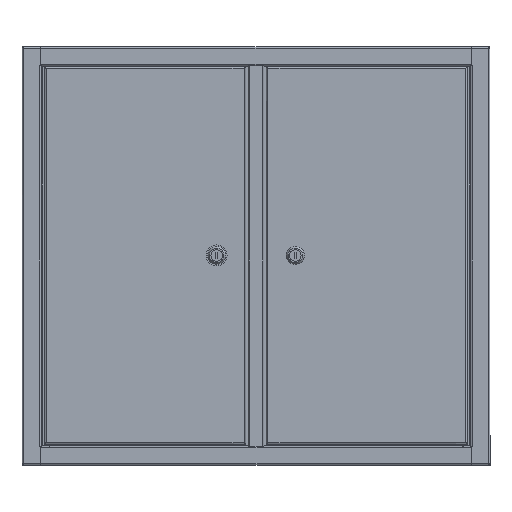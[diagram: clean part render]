
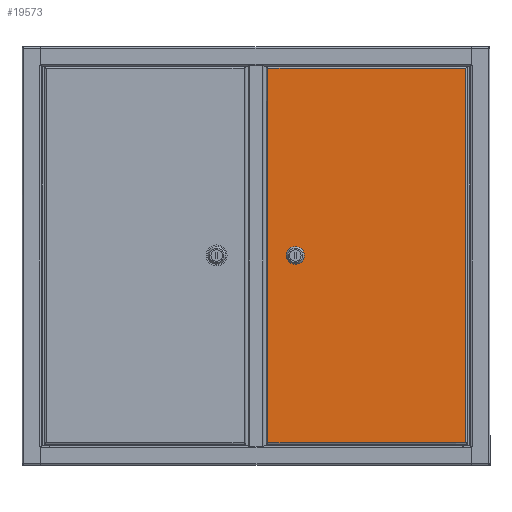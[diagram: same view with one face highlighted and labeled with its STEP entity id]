
A CAD part, top view. The second image highlights one B-rep face of the part: STEP entity #19573.
In plain terms, the highlighted planar face has unit normal (0, 0, 1).
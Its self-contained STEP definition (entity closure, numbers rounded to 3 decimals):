
#93 = CARTESIAN_POINT ( 'NONE',  ( -6.9, -496.5, 576.901 ) ) ;
#163 = VERTEX_POINT ( 'NONE', #13066 ) ;
#189 = DIRECTION ( 'NONE',  ( -1., 0., 0. ) ) ;
#197 = ORIENTED_EDGE ( 'NONE', *, *, #11896, .F. ) ;
#218 = EDGE_CURVE ( 'NONE', #21277, #19864, #6233, .T. ) ;
#311 = ORIENTED_EDGE ( 'NONE', *, *, #218, .F. ) ;
#785 = DIRECTION ( 'NONE',  ( 0., 0., 1. ) ) ;
#1445 = VERTEX_POINT ( 'NONE', #3227 ) ;
#1457 = CARTESIAN_POINT ( 'NONE',  ( -222., -242.1, 576.901 ) ) ;
#1505 = EDGE_CURVE ( 'NONE', #21277, #19924, #6141, .T. ) ;
#1922 = FACE_OUTER_BOUND ( 'NONE', #10772, .T. ) ;
#2087 = DIRECTION ( 'NONE',  ( 1., 0., 0. ) ) ;
#2501 = ORIENTED_EDGE ( 'NONE', *, *, #6378, .F. ) ;
#3227 = CARTESIAN_POINT ( 'NONE',  ( -222., -242.1, 576.901 ) ) ;
#4042 = DIRECTION ( 'NONE',  ( 0., 1., 0. ) ) ;
#4104 = PLANE ( 'NONE',  #9706 ) ;
#4255 = ORIENTED_EDGE ( 'NONE', *, *, #16265, .F. ) ;
#4791 = ORIENTED_EDGE ( 'NONE', *, *, #1505, .T. ) ;
#6141 = LINE ( 'NONE', #93, #18536 ) ;
#6214 = DIRECTION ( 'NONE',  ( 0., 1., 0. ) ) ;
#6233 = LINE ( 'NONE', #21214, #13603 ) ;
#6277 = EDGE_CURVE ( 'NONE', #13311, #19864, #21318, .T. ) ;
#6291 = EDGE_LOOP ( 'NONE', ( #2501, #17830, #4255, #197 ) ) ;
#6378 = EDGE_CURVE ( 'NONE', #1445, #18765, #13930, .T. ) ;
#6500 = DIRECTION ( 'NONE',  ( 0., -1., 0. ) ) ;
#6779 = CARTESIAN_POINT ( 'NONE',  ( -5.7, -4.1, 576.901 ) ) ;
#6907 = ORIENTED_EDGE ( 'NONE', *, *, #6277, .T. ) ;
#6949 = VECTOR ( 'NONE', #6214, 1000. ) ;
#7476 = CARTESIAN_POINT ( 'NONE',  ( -240., -242.1, 576.901 ) ) ;
#8057 = DIRECTION ( 'NONE',  ( -1., 0., 0. ) ) ;
#8201 = CARTESIAN_POINT ( 'NONE',  ( -240., -242.1, 576.901 ) ) ;
#9369 = VECTOR ( 'NONE', #189, 1000. ) ;
#9706 = AXIS2_PLACEMENT_3D ( 'NONE', #14141, #785, #4042 ) ;
#10772 = EDGE_LOOP ( 'NONE', ( #13965, #6907, #311, #4791 ) ) ;
#11564 = VECTOR ( 'NONE', #8057, 1000. ) ;
#11896 = EDGE_CURVE ( 'NONE', #18765, #163, #14070, .T. ) ;
#12002 = LINE ( 'NONE', #6779, #9369 ) ;
#12098 = VECTOR ( 'NONE', #6500, 1000. ) ;
#13066 = CARTESIAN_POINT ( 'NONE',  ( -240., -258.5, 576.901 ) ) ;
#13230 = DIRECTION ( 'NONE',  ( 0., 1., 0. ) ) ;
#13311 = VERTEX_POINT ( 'NONE', #15504 ) ;
#13603 = VECTOR ( 'NONE', #17900, 1000. ) ;
#13812 = VECTOR ( 'NONE', #20821, 1000. ) ;
#13930 = LINE ( 'NONE', #1457, #11564 ) ;
#13965 = ORIENTED_EDGE ( 'NONE', *, *, #19293, .T. ) ;
#14070 = LINE ( 'NONE', #7476, #13812 ) ;
#14141 = CARTESIAN_POINT ( 'NONE',  ( -5.7, -498.5, 576.901 ) ) ;
#15171 = VERTEX_POINT ( 'NONE', #20288 ) ;
#15215 = CARTESIAN_POINT ( 'NONE',  ( -6.9, -496.5, 576.901 ) ) ;
#15504 = CARTESIAN_POINT ( 'NONE',  ( -267., -4.1, 576.901 ) ) ;
#15814 = CARTESIAN_POINT ( 'NONE',  ( -6.9, -4.1, 576.901 ) ) ;
#15960 = FACE_BOUND ( 'NONE', #6291, .T. ) ;
#16265 = EDGE_CURVE ( 'NONE', #163, #15171, #17546, .T. ) ;
#16541 = EDGE_CURVE ( 'NONE', #15171, #1445, #18821, .T. ) ;
#16766 = CARTESIAN_POINT ( 'NONE',  ( -267., -4.1, 576.901 ) ) ;
#17283 = VECTOR ( 'NONE', #2087, 1000. ) ;
#17546 = LINE ( 'NONE', #18916, #17283 ) ;
#17830 = ORIENTED_EDGE ( 'NONE', *, *, #16541, .F. ) ;
#17900 = DIRECTION ( 'NONE',  ( -1., 0., 0. ) ) ;
#18536 = VECTOR ( 'NONE', #13230, 1000. ) ;
#18765 = VERTEX_POINT ( 'NONE', #8201 ) ;
#18821 = LINE ( 'NONE', #19558, #6949 ) ;
#18916 = CARTESIAN_POINT ( 'NONE',  ( -222., -258.5, 576.901 ) ) ;
#19293 = EDGE_CURVE ( 'NONE', #19924, #13311, #12002, .T. ) ;
#19558 = CARTESIAN_POINT ( 'NONE',  ( -222., -242.1, 576.901 ) ) ;
#19573 = ADVANCED_FACE ( 'NONE', ( #1922, #15960 ), #4104, .T. ) ;
#19864 = VERTEX_POINT ( 'NONE', #20826 ) ;
#19924 = VERTEX_POINT ( 'NONE', #15814 ) ;
#20288 = CARTESIAN_POINT ( 'NONE',  ( -222., -258.5, 576.901 ) ) ;
#20821 = DIRECTION ( 'NONE',  ( 0., -1., 0. ) ) ;
#20826 = CARTESIAN_POINT ( 'NONE',  ( -267., -496.5, 576.901 ) ) ;
#21214 = CARTESIAN_POINT ( 'NONE',  ( -5.7, -496.5, 576.901 ) ) ;
#21277 = VERTEX_POINT ( 'NONE', #15215 ) ;
#21318 = LINE ( 'NONE', #16766, #12098 ) ;
